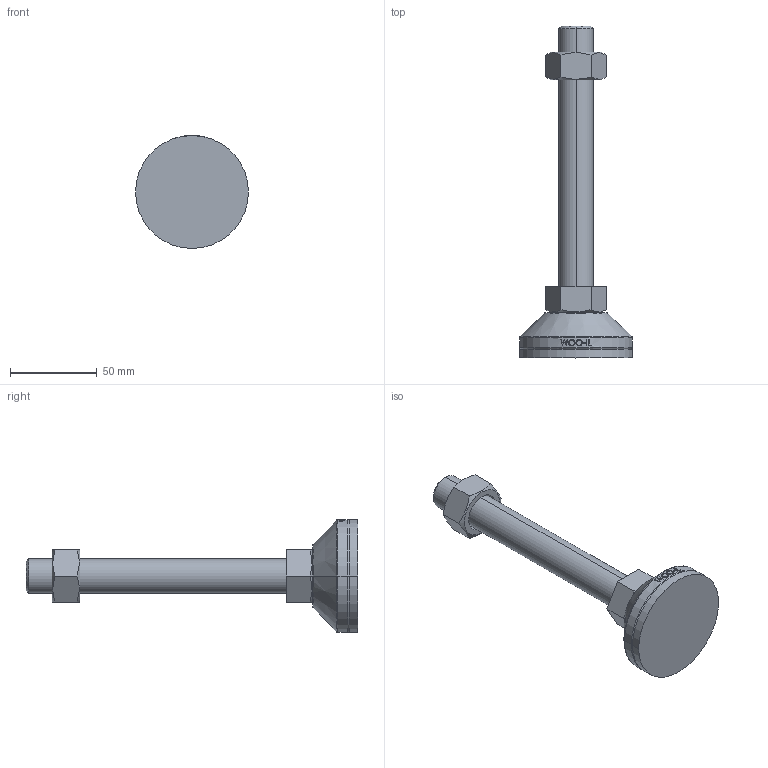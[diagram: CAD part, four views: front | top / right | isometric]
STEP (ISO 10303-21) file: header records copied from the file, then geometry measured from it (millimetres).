
FILE_DESCRIPTION (( 'STEP AP214' ), '1' );
FILE_NAME ('NHNR65-M20-150.step', '2021-01-25T06:18:17', ( '' ), ( '' ), 'SwSTEP 2.0', 'SolidWorks 2019', '' );
FILE_SCHEMA (( 'AUTOMOTIVE_DESIGN' ));
Length unit declared in the file: millimetre
Products named in the file (2): NHNR65-M20-150
Bounding box: 65 x 191 x 65 mm (x, y, z)
Volume: 133818.6 mm3; surface area: 32638.4 mm2
Topology: 4 solids, 4 shells, 105 faces, 243 edges, 156 vertices
Faces by surface type: plane 49, cylinder 18, bspline 16, cone 14, torus 8
Entity records: 4407 total; most frequent: CARTESIAN_POINT 2070, ORIENTED_EDGE 486, DIRECTION 429, EDGE_CURVE 243, AXIS2_PLACEMENT_3D 165, VERTEX_POINT 156, EDGE_LOOP 117, ADVANCED_FACE 105
